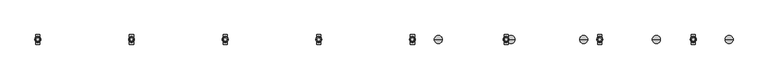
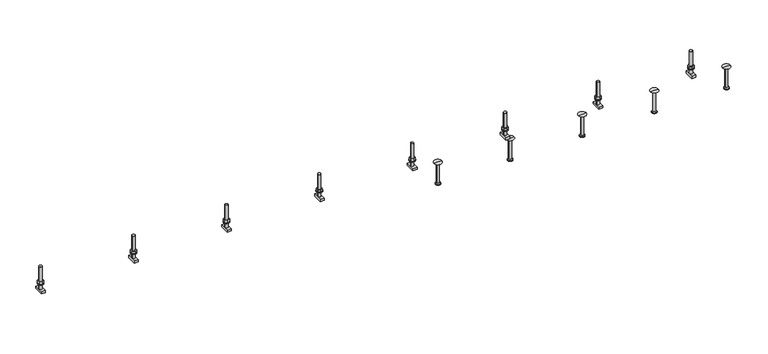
"""IFC4 building model written with IfcOpenShell, lengths in millimetres: fastener geometry, JTA-W JORDAHL® AnchorChannels : JTA-W L=3000 mm."""

from ifc_helpers import new_model, si_unit, point, frame, frame_2d, origin, place, context, project, spatial, polyline, circle_curve, trimmed, segment, composite_curve, outline, extrude, source, transform, mapped, element, save
from ifc_brep_helpers import plane_surface, cylinder_surface, revolved_surface, advanced_brep


def fastener_02e16a5b(model_context):
    return source(origin(), model_context, "Body", "SolidModel", [
        extrude(outline(polyline([(2608.3333333, 9.2376043), (2616.3333333, 4.6188022), (2616.3333333, -4.6188022), (2608.3333333, -9.2376043), (2600.3333333, -4.6188022), (2600.3333333, 4.6188022), (2608.3333333, 9.2376043)]), holes=[composite_curve([segment(trimmed(circle_curve(frame_2d((2608.3333333, 0.0)), 5.0), [point((2603.3333333, 0.0))], [point((2613.3333333, 0.0))], True, "CARTESIAN"), True, "CONTINUOUS"), segment(trimmed(circle_curve(frame_2d((2608.3333333, 0.0)), 5.0), [point((2613.3333333, 0.0))], [point((2603.3333333, 0.0))], True, "CARTESIAN"), True, "CONTINUOUS")], self_intersect=False)]), frame((0.0, 0.0, 17.0), z_axis=(0.0, 0.0, 1.0), x_axis=(1.0, 0.0, 0.0)), (0.0, 0.0, 1.0), 8.4),
        extrude(outline(composite_curve([segment(trimmed(circle_curve(frame_2d((2608.3333333, 0.0)), 10.0), [point((2598.3333333, 0.0))], [point((2618.3333333, 0.0))], False, "CARTESIAN"), True, "CONTINUOUS"), segment(trimmed(circle_curve(frame_2d((2608.3333333, 0.0)), 10.0), [point((2618.3333333, 0.0))], [point((2598.3333333, 0.0))], False, "CARTESIAN"), True, "CONTINUOUS")], self_intersect=False), holes=[composite_curve([segment(trimmed(circle_curve(frame_2d((2608.3333333, 0.0)), 5.25), [point((2603.0833333, 0.0))], [point((2613.5833333, 0.0))], True, "CARTESIAN"), True, "CONTINUOUS"), segment(trimmed(circle_curve(frame_2d((2608.3333333, 0.0)), 5.25), [point((2613.5833333, 0.0))], [point((2603.0833333, 0.0))], True, "CARTESIAN"), True, "CONTINUOUS")], self_intersect=False)]), frame((0.0, 0.0, 15.0), z_axis=(0.0, 0.0, 1.0), x_axis=(1.0, 0.0, 0.0)), (0.0, 0.0, 1.0), 2.0),
        extrude(outline(polyline([(2291.6666667, 9.2376043), (2299.6666667, 4.6188022), (2299.6666667, -4.6188022), (2291.6666667, -9.2376043), (2283.6666667, -4.6188022), (2283.6666667, 4.6188022), (2291.6666667, 9.2376043)]), holes=[composite_curve([segment(trimmed(circle_curve(frame_2d((2291.6666667, 0.0)), 5.0), [point((2286.6666667, 0.0))], [point((2296.6666667, 0.0))], True, "CARTESIAN"), True, "CONTINUOUS"), segment(trimmed(circle_curve(frame_2d((2291.6666667, 0.0)), 5.0), [point((2296.6666667, 0.0))], [point((2286.6666667, 0.0))], True, "CARTESIAN"), True, "CONTINUOUS")], self_intersect=False)]), frame((0.0, 0.0, 17.0), z_axis=(0.0, 0.0, 1.0), x_axis=(1.0, 0.0, 0.0)), (0.0, 0.0, 1.0), 8.4),
        extrude(outline(composite_curve([segment(trimmed(circle_curve(frame_2d((2291.6666667, 0.0)), 10.0), [point((2281.6666667, 0.0))], [point((2301.6666667, 0.0))], False, "CARTESIAN"), True, "CONTINUOUS"), segment(trimmed(circle_curve(frame_2d((2291.6666667, 0.0)), 10.0), [point((2301.6666667, 0.0))], [point((2281.6666667, 0.0))], False, "CARTESIAN"), True, "CONTINUOUS")], self_intersect=False), holes=[composite_curve([segment(trimmed(circle_curve(frame_2d((2291.6666667, 0.0)), 5.25), [point((2286.4166667, 0.0))], [point((2296.9166667, 0.0))], True, "CARTESIAN"), True, "CONTINUOUS"), segment(trimmed(circle_curve(frame_2d((2291.6666667, 0.0)), 5.25), [point((2296.9166667, 0.0))], [point((2286.4166667, 0.0))], True, "CARTESIAN"), True, "CONTINUOUS")], self_intersect=False)]), frame((0.0, 0.0, 15.0), z_axis=(0.0, 0.0, 1.0), x_axis=(1.0, 0.0, 0.0)), (0.0, 0.0, 1.0), 2.0),
        extrude(outline(polyline([(1975.0, 9.2376043), (1983.0, 4.6188022), (1983.0, -4.6188022), (1975.0, -9.2376043), (1967.0, -4.6188022), (1967.0, 4.6188022), (1975.0, 9.2376043)]), holes=[composite_curve([segment(trimmed(circle_curve(frame_2d((1975.0, 0.0)), 5.0), [point((1970.0, 0.0))], [point((1980.0, 0.0))], True, "CARTESIAN"), True, "CONTINUOUS"), segment(trimmed(circle_curve(frame_2d((1975.0, 0.0)), 5.0), [point((1980.0, 0.0))], [point((1970.0, 0.0))], True, "CARTESIAN"), True, "CONTINUOUS")], self_intersect=False)]), frame((0.0, 0.0, 17.0), z_axis=(0.0, 0.0, 1.0), x_axis=(1.0, 0.0, 0.0)), (0.0, 0.0, 1.0), 8.4),
        extrude(outline(composite_curve([segment(trimmed(circle_curve(frame_2d((1975.0, 0.0)), 10.0), [point((1965.0, 0.0))], [point((1985.0, 0.0))], False, "CARTESIAN"), True, "CONTINUOUS"), segment(trimmed(circle_curve(frame_2d((1975.0, 0.0)), 10.0), [point((1985.0, 0.0))], [point((1965.0, 0.0))], False, "CARTESIAN"), True, "CONTINUOUS")], self_intersect=False), holes=[composite_curve([segment(trimmed(circle_curve(frame_2d((1975.0, 0.0)), 5.25), [point((1969.75, 0.0))], [point((1980.25, 0.0))], True, "CARTESIAN"), True, "CONTINUOUS"), segment(trimmed(circle_curve(frame_2d((1975.0, 0.0)), 5.25), [point((1980.25, 0.0))], [point((1969.75, 0.0))], True, "CARTESIAN"), True, "CONTINUOUS")], self_intersect=False)]), frame((0.0, 0.0, 15.0), z_axis=(0.0, 0.0, 1.0), x_axis=(1.0, 0.0, 0.0)), (0.0, 0.0, 1.0), 2.0),
        extrude(outline(polyline([(1658.3333333, 9.2376043), (1666.3333333, 4.6188022), (1666.3333333, -4.6188022), (1658.3333333, -9.2376043), (1650.3333333, -4.6188022), (1650.3333333, 4.6188022), (1658.3333333, 9.2376043)]), holes=[composite_curve([segment(trimmed(circle_curve(frame_2d((1658.3333333, 0.0)), 5.0), [point((1653.3333333, 0.0))], [point((1663.3333333, 0.0))], True, "CARTESIAN"), True, "CONTINUOUS"), segment(trimmed(circle_curve(frame_2d((1658.3333333, 0.0)), 5.0), [point((1663.3333333, 0.0))], [point((1653.3333333, 0.0))], True, "CARTESIAN"), True, "CONTINUOUS")], self_intersect=False)]), frame((0.0, 0.0, 17.0), z_axis=(0.0, 0.0, 1.0), x_axis=(1.0, 0.0, 0.0)), (0.0, 0.0, 1.0), 8.4),
        extrude(outline(composite_curve([segment(trimmed(circle_curve(frame_2d((1658.3333333, 0.0)), 10.0), [point((1648.3333333, 0.0))], [point((1668.3333333, 0.0))], False, "CARTESIAN"), True, "CONTINUOUS"), segment(trimmed(circle_curve(frame_2d((1658.3333333, 0.0)), 10.0), [point((1668.3333333, 0.0))], [point((1648.3333333, 0.0))], False, "CARTESIAN"), True, "CONTINUOUS")], self_intersect=False), holes=[composite_curve([segment(trimmed(circle_curve(frame_2d((1658.3333333, 0.0)), 5.25), [point((1653.0833333, 0.0))], [point((1663.5833333, 0.0))], True, "CARTESIAN"), True, "CONTINUOUS"), segment(trimmed(circle_curve(frame_2d((1658.3333333, 0.0)), 5.25), [point((1663.5833333, 0.0))], [point((1653.0833333, 0.0))], True, "CARTESIAN"), True, "CONTINUOUS")], self_intersect=False)]), frame((0.0, 0.0, 15.0), z_axis=(0.0, 0.0, 1.0), x_axis=(1.0, 0.0, 0.0)), (0.0, 0.0, 1.0), 2.0),
        extrude(outline(polyline([(1341.6666667, 9.2376043), (1349.6666667, 4.6188022), (1349.6666667, -4.6188022), (1341.6666667, -9.2376043), (1333.6666667, -4.6188022), (1333.6666667, 4.6188022), (1341.6666667, 9.2376043)]), holes=[composite_curve([segment(trimmed(circle_curve(frame_2d((1341.6666667, 0.0)), 5.0), [point((1336.6666667, 0.0))], [point((1346.6666667, 0.0))], True, "CARTESIAN"), True, "CONTINUOUS"), segment(trimmed(circle_curve(frame_2d((1341.6666667, 0.0)), 5.0), [point((1346.6666667, 0.0))], [point((1336.6666667, 0.0))], True, "CARTESIAN"), True, "CONTINUOUS")], self_intersect=False)]), frame((0.0, 0.0, 17.0), z_axis=(0.0, 0.0, 1.0), x_axis=(1.0, 0.0, 0.0)), (0.0, 0.0, 1.0), 8.4),
        extrude(outline(composite_curve([segment(trimmed(circle_curve(frame_2d((1341.6666667, 0.0)), 10.0), [point((1331.6666667, 0.0))], [point((1351.6666667, 0.0))], False, "CARTESIAN"), True, "CONTINUOUS"), segment(trimmed(circle_curve(frame_2d((1341.6666667, 0.0)), 10.0), [point((1351.6666667, 0.0))], [point((1331.6666667, 0.0))], False, "CARTESIAN"), True, "CONTINUOUS")], self_intersect=False), holes=[composite_curve([segment(trimmed(circle_curve(frame_2d((1341.6666667, 0.0)), 5.25), [point((1336.4166667, 0.0))], [point((1346.9166667, 0.0))], True, "CARTESIAN"), True, "CONTINUOUS"), segment(trimmed(circle_curve(frame_2d((1341.6666667, 0.0)), 5.25), [point((1346.9166667, 0.0))], [point((1336.4166667, 0.0))], True, "CARTESIAN"), True, "CONTINUOUS")], self_intersect=False)]), frame((0.0, 0.0, 15.0), z_axis=(0.0, 0.0, 1.0), x_axis=(1.0, 0.0, 0.0)), (0.0, 0.0, 1.0), 2.0),
        extrude(outline(polyline([(1025.0, 9.2376043), (1033.0, 4.6188022), (1033.0, -4.6188022), (1025.0, -9.2376043), (1017.0, -4.6188022), (1017.0, 4.6188022), (1025.0, 9.2376043)]), holes=[composite_curve([segment(trimmed(circle_curve(frame_2d((1025.0, 0.0)), 5.0), [point((1020.0, 0.0))], [point((1030.0, 0.0))], True, "CARTESIAN"), True, "CONTINUOUS"), segment(trimmed(circle_curve(frame_2d((1025.0, 0.0)), 5.0), [point((1030.0, 0.0))], [point((1020.0, 0.0))], True, "CARTESIAN"), True, "CONTINUOUS")], self_intersect=False)]), frame((0.0, 0.0, 17.0), z_axis=(0.0, 0.0, 1.0), x_axis=(1.0, 0.0, 0.0)), (0.0, 0.0, 1.0), 8.4),
        extrude(outline(composite_curve([segment(trimmed(circle_curve(frame_2d((1025.0, 0.0)), 10.0), [point((1015.0, 0.0))], [point((1035.0, 0.0))], False, "CARTESIAN"), True, "CONTINUOUS"), segment(trimmed(circle_curve(frame_2d((1025.0, 0.0)), 10.0), [point((1035.0, 0.0))], [point((1015.0, 0.0))], False, "CARTESIAN"), True, "CONTINUOUS")], self_intersect=False), holes=[composite_curve([segment(trimmed(circle_curve(frame_2d((1025.0, 0.0)), 5.25), [point((1019.75, 0.0))], [point((1030.25, 0.0))], True, "CARTESIAN"), True, "CONTINUOUS"), segment(trimmed(circle_curve(frame_2d((1025.0, 0.0)), 5.25), [point((1030.25, 0.0))], [point((1019.75, 0.0))], True, "CARTESIAN"), True, "CONTINUOUS")], self_intersect=False)]), frame((0.0, 0.0, 15.0), z_axis=(0.0, 0.0, 1.0), x_axis=(1.0, 0.0, 0.0)), (0.0, 0.0, 1.0), 2.0),
        extrude(outline(polyline([(708.3333333, 9.2376043), (716.3333333, 4.6188022), (716.3333333, -4.6188022), (708.3333333, -9.2376043), (700.3333333, -4.6188022), (700.3333333, 4.6188022), (708.3333333, 9.2376043)]), holes=[composite_curve([segment(trimmed(circle_curve(frame_2d((708.3333333, 0.0)), 5.0), [point((703.3333333, 0.0))], [point((713.3333333, 0.0))], True, "CARTESIAN"), True, "CONTINUOUS"), segment(trimmed(circle_curve(frame_2d((708.3333333, 0.0)), 5.0), [point((713.3333333, 0.0))], [point((703.3333333, 0.0))], True, "CARTESIAN"), True, "CONTINUOUS")], self_intersect=False)]), frame((0.0, 0.0, 17.0), z_axis=(0.0, 0.0, 1.0), x_axis=(1.0, 0.0, 0.0)), (0.0, 0.0, 1.0), 8.4),
        extrude(outline(composite_curve([segment(trimmed(circle_curve(frame_2d((708.3333333, 0.0)), 10.0), [point((698.3333333, 0.0))], [point((718.3333333, 0.0))], False, "CARTESIAN"), True, "CONTINUOUS"), segment(trimmed(circle_curve(frame_2d((708.3333333, 0.0)), 10.0), [point((718.3333333, 0.0))], [point((698.3333333, 0.0))], False, "CARTESIAN"), True, "CONTINUOUS")], self_intersect=False), holes=[composite_curve([segment(trimmed(circle_curve(frame_2d((708.3333333, 0.0)), 5.25), [point((703.0833333, 0.0))], [point((713.5833333, 0.0))], True, "CARTESIAN"), True, "CONTINUOUS"), segment(trimmed(circle_curve(frame_2d((708.3333333, 0.0)), 5.25), [point((713.5833333, 0.0))], [point((703.0833333, 0.0))], True, "CARTESIAN"), True, "CONTINUOUS")], self_intersect=False)]), frame((0.0, 0.0, 15.0), z_axis=(0.0, 0.0, 1.0), x_axis=(1.0, 0.0, 0.0)), (0.0, 0.0, 1.0), 2.0),
        extrude(outline(polyline([(391.6666667, 9.2376043), (399.6666667, 4.6188022), (399.6666667, -4.6188022), (391.6666667, -9.2376043), (383.6666667, -4.6188022), (383.6666667, 4.6188022), (391.6666667, 9.2376043)]), holes=[composite_curve([segment(trimmed(circle_curve(frame_2d((391.6666667, 0.0)), 5.0), [point((386.6666667, 0.0))], [point((396.6666667, 0.0))], True, "CARTESIAN"), True, "CONTINUOUS"), segment(trimmed(circle_curve(frame_2d((391.6666667, 0.0)), 5.0), [point((396.6666667, 0.0))], [point((386.6666667, 0.0))], True, "CARTESIAN"), True, "CONTINUOUS")], self_intersect=False)]), frame((0.0, 0.0, 17.0), z_axis=(0.0, 0.0, 1.0), x_axis=(1.0, 0.0, 0.0)), (0.0, 0.0, 1.0), 8.4),
        extrude(outline(composite_curve([segment(trimmed(circle_curve(frame_2d((391.6666667, 0.0)), 10.0), [point((381.6666667, 0.0))], [point((401.6666667, 0.0))], False, "CARTESIAN"), True, "CONTINUOUS"), segment(trimmed(circle_curve(frame_2d((391.6666667, 0.0)), 10.0), [point((401.6666667, 0.0))], [point((381.6666667, 0.0))], False, "CARTESIAN"), True, "CONTINUOUS")], self_intersect=False), holes=[composite_curve([segment(trimmed(circle_curve(frame_2d((391.6666667, 0.0)), 5.25), [point((386.4166667, 0.0))], [point((396.9166667, 0.0))], True, "CARTESIAN"), True, "CONTINUOUS"), segment(trimmed(circle_curve(frame_2d((391.6666667, 0.0)), 5.25), [point((396.9166667, 0.0))], [point((386.4166667, 0.0))], True, "CARTESIAN"), True, "CONTINUOUS")], self_intersect=False)]), frame((0.0, 0.0, 15.0), z_axis=(0.0, 0.0, 1.0), x_axis=(1.0, 0.0, 0.0)), (0.0, 0.0, 1.0), 2.0),
        advanced_brep(
        [(2615.3333333, 16.25, -3.0), (2615.3333333, -16.25, -3.0), (2615.3333333, -16.25, -11.0), (2615.3333333, 16.25, -11.0), (2601.3333333, 16.25, -3.0), (2601.3333333, 16.25, -11.0), (2601.3333333, -16.25, -11.0), (2601.3333333, -16.25, -3.0), (2613.3333333, 0.0, -3.0), (2603.3333333, 0.0, -3.0), (2603.3333333, 0.0, 77.0), (2613.3333333, 0.0, 77.0)],
        [
            (0, 1),
            (1, 2),
            (2, 3),
            (3, 0),
            (4, 5),
            (5, 6),
            (6, 7),
            (7, 4),
            (0, 4),
            (7, 1),
            (8, 9, circle_curve(frame((2608.3333333, 0.0, -3.0), z_axis=(0.0, 0.0, -1.0), x_axis=(1.0, 0.0, 0.0)), 5.0)),
            (9, 8, circle_curve(frame((2608.3333333, 0.0, -3.0), z_axis=(0.0, 0.0, -1.0), x_axis=(1.0, 0.0, 0.0)), 5.0)),
            (6, 2),
            (5, 3),
            (10, 11, circle_curve(frame((2608.3333333, 0.0, 77.0), z_axis=(0.0, 0.0, 1.0), x_axis=(1.0, 0.0, 0.0)), 5.0)),
            (11, 10, circle_curve(frame((2608.3333333, 0.0, 77.0), z_axis=(0.0, 0.0, 1.0), x_axis=(1.0, 0.0, 0.0)), 5.0)),
            (10, 9),
            (8, 11),
        ],
        [
            plane_surface(frame((2615.3333333, -16.25, -3.0), z_axis=(1.0, 0.0, 0.0), x_axis=(0.0, -1.0, 0.0))),
            plane_surface(frame((2601.3333333, -16.25, -3.0), z_axis=(-1.0, 0.0, 0.0), x_axis=(0.0, 1.0, 0.0))),
            plane_surface(frame((2615.3333333, 16.25, -3.0), z_axis=(0.0, 0.0, 1.0), x_axis=(-1.0, 0.0, 0.0))),
            plane_surface(frame((2615.3333333, -16.25, -3.0), z_axis=(0.0, -1.0, 0.0), x_axis=(-1.0, 0.0, 0.0))),
            plane_surface(frame((2615.3333333, -16.25, -11.0), z_axis=(0.0, 0.0, -1.0), x_axis=(-1.0, 0.0, 0.0))),
            plane_surface(frame((2615.3333333, 16.25, -11.0), z_axis=(0.0, 1.0, 0.0), x_axis=(-1.0, 0.0, 0.0))),
            plane_surface(frame((2613.3333333, 0.0, 77.0), z_axis=(0.0, 0.0, 1.0), x_axis=(0.0, 1.0, 0.0))),
            cylinder_surface(frame((2608.3333333, 0.0, -3.0), z_axis=(0.0, 0.0, 1.0), x_axis=(1.0, 0.0, 0.0)), 5.0),
        ],
        [
            (0, [[1, 2, 3, 4]]),
            (1, [[5, 6, 7, 8]]),
            (2, [[-1, 9, -8, 10], [11, 12]]),
            (3, [[-2, -10, -7, 13]]),
            (4, [[-3, -13, -6, 14]]),
            (5, [[-4, -14, -5, -9]]),
            (6, [[15, 16]]),
            (7, [[-15, 17, -11, 18]]),
            (7, [[-16, -18, -12, -17]]),
        ],
    ),
        advanced_brep(
        [(2298.6666667, 16.25, -3.0), (2298.6666667, -16.25, -3.0), (2298.6666667, -16.25, -11.0), (2298.6666667, 16.25, -11.0), (2284.6666667, 16.25, -3.0), (2284.6666667, 16.25, -11.0), (2284.6666667, -16.25, -11.0), (2284.6666667, -16.25, -3.0), (2296.6666667, 0.0, -3.0), (2286.6666667, 0.0, -3.0), (2286.6666667, 0.0, 77.0), (2296.6666667, 0.0, 77.0)],
        [
            (0, 1),
            (1, 2),
            (2, 3),
            (3, 0),
            (4, 5),
            (5, 6),
            (6, 7),
            (7, 4),
            (0, 4),
            (7, 1),
            (8, 9, circle_curve(frame((2291.6666667, 0.0, -3.0), z_axis=(0.0, 0.0, -1.0), x_axis=(1.0, 0.0, 0.0)), 5.0)),
            (9, 8, circle_curve(frame((2291.6666667, 0.0, -3.0), z_axis=(0.0, 0.0, -1.0), x_axis=(1.0, 0.0, 0.0)), 5.0)),
            (6, 2),
            (5, 3),
            (10, 11, circle_curve(frame((2291.6666667, 0.0, 77.0), z_axis=(0.0, 0.0, 1.0), x_axis=(1.0, 0.0, 0.0)), 5.0)),
            (11, 10, circle_curve(frame((2291.6666667, 0.0, 77.0), z_axis=(0.0, 0.0, 1.0), x_axis=(1.0, 0.0, 0.0)), 5.0)),
            (10, 9),
            (8, 11),
        ],
        [
            plane_surface(frame((2298.6666667, -16.25, -3.0), z_axis=(1.0, 0.0, 0.0), x_axis=(0.0, -1.0, 0.0))),
            plane_surface(frame((2284.6666667, -16.25, -3.0), z_axis=(-1.0, 0.0, 0.0), x_axis=(0.0, 1.0, 0.0))),
            plane_surface(frame((2298.6666667, 16.25, -3.0), z_axis=(0.0, 0.0, 1.0), x_axis=(-1.0, 0.0, 0.0))),
            plane_surface(frame((2298.6666667, -16.25, -3.0), z_axis=(0.0, -1.0, 0.0), x_axis=(-1.0, 0.0, 0.0))),
            plane_surface(frame((2298.6666667, -16.25, -11.0), z_axis=(0.0, 0.0, -1.0), x_axis=(-1.0, 0.0, 0.0))),
            plane_surface(frame((2298.6666667, 16.25, -11.0), z_axis=(0.0, 1.0, 0.0), x_axis=(-1.0, 0.0, 0.0))),
            plane_surface(frame((2296.6666667, 0.0, 77.0), z_axis=(0.0, 0.0, 1.0), x_axis=(0.0, 1.0, 0.0))),
            cylinder_surface(frame((2291.6666667, 0.0, -3.0), z_axis=(0.0, 0.0, 1.0), x_axis=(1.0, 0.0, 0.0)), 5.0),
        ],
        [
            (0, [[1, 2, 3, 4]]),
            (1, [[5, 6, 7, 8]]),
            (2, [[-1, 9, -8, 10], [11, 12]]),
            (3, [[-2, -10, -7, 13]]),
            (4, [[-3, -13, -6, 14]]),
            (5, [[-4, -14, -5, -9]]),
            (6, [[15, 16]]),
            (7, [[-15, 17, -11, 18]]),
            (7, [[-16, -18, -12, -17]]),
        ],
    ),
        advanced_brep(
        [(1982.0, 16.25, -3.0), (1982.0, -16.25, -3.0), (1982.0, -16.25, -11.0), (1982.0, 16.25, -11.0), (1968.0, 16.25, -3.0), (1968.0, 16.25, -11.0), (1968.0, -16.25, -11.0), (1968.0, -16.25, -3.0), (1980.0, 0.0, -3.0), (1970.0, 0.0, -3.0), (1970.0, 0.0, 77.0), (1980.0, 0.0, 77.0)],
        [
            (0, 1),
            (1, 2),
            (2, 3),
            (3, 0),
            (4, 5),
            (5, 6),
            (6, 7),
            (7, 4),
            (0, 4),
            (7, 1),
            (8, 9, circle_curve(frame((1975.0, 0.0, -3.0), z_axis=(0.0, 0.0, -1.0), x_axis=(1.0, 0.0, 0.0)), 5.0)),
            (9, 8, circle_curve(frame((1975.0, 0.0, -3.0), z_axis=(0.0, 0.0, -1.0), x_axis=(1.0, 0.0, 0.0)), 5.0)),
            (6, 2),
            (5, 3),
            (10, 11, circle_curve(frame((1975.0, 0.0, 77.0), z_axis=(0.0, 0.0, 1.0), x_axis=(1.0, 0.0, 0.0)), 5.0)),
            (11, 10, circle_curve(frame((1975.0, 0.0, 77.0), z_axis=(0.0, 0.0, 1.0), x_axis=(1.0, 0.0, 0.0)), 5.0)),
            (10, 9),
            (8, 11),
        ],
        [
            plane_surface(frame((1982.0, -16.25, -3.0), z_axis=(1.0, 0.0, 0.0), x_axis=(0.0, -1.0, 0.0))),
            plane_surface(frame((1968.0, -16.25, -3.0), z_axis=(-1.0, 0.0, 0.0), x_axis=(0.0, 1.0, 0.0))),
            plane_surface(frame((1982.0, 16.25, -3.0), z_axis=(0.0, 0.0, 1.0), x_axis=(-1.0, 0.0, 0.0))),
            plane_surface(frame((1982.0, -16.25, -3.0), z_axis=(0.0, -1.0, 0.0), x_axis=(-1.0, 0.0, 0.0))),
            plane_surface(frame((1982.0, -16.25, -11.0), z_axis=(0.0, 0.0, -1.0), x_axis=(-1.0, 0.0, 0.0))),
            plane_surface(frame((1982.0, 16.25, -11.0), z_axis=(0.0, 1.0, 0.0), x_axis=(-1.0, 0.0, 0.0))),
            plane_surface(frame((1980.0, 0.0, 77.0), z_axis=(0.0, 0.0, 1.0), x_axis=(0.0, 1.0, 0.0))),
            cylinder_surface(frame((1975.0, 0.0, -3.0), z_axis=(0.0, 0.0, 1.0), x_axis=(1.0, 0.0, 0.0)), 5.0),
        ],
        [
            (0, [[1, 2, 3, 4]]),
            (1, [[5, 6, 7, 8]]),
            (2, [[-1, 9, -8, 10], [11, 12]]),
            (3, [[-2, -10, -7, 13]]),
            (4, [[-3, -13, -6, 14]]),
            (5, [[-4, -14, -5, -9]]),
            (6, [[15, 16]]),
            (7, [[-15, 17, -11, 18]]),
            (7, [[-16, -18, -12, -17]]),
        ],
    ),
        advanced_brep(
        [(1665.3333333, 16.25, -3.0), (1665.3333333, -16.25, -3.0), (1665.3333333, -16.25, -11.0), (1665.3333333, 16.25, -11.0), (1651.3333333, 16.25, -3.0), (1651.3333333, 16.25, -11.0), (1651.3333333, -16.25, -11.0), (1651.3333333, -16.25, -3.0), (1663.3333333, 0.0, -3.0), (1653.3333333, 0.0, -3.0), (1653.3333333, 0.0, 77.0), (1663.3333333, 0.0, 77.0)],
        [
            (0, 1),
            (1, 2),
            (2, 3),
            (3, 0),
            (4, 5),
            (5, 6),
            (6, 7),
            (7, 4),
            (0, 4),
            (7, 1),
            (8, 9, circle_curve(frame((1658.3333333, 0.0, -3.0), z_axis=(0.0, 0.0, -1.0), x_axis=(1.0, 0.0, 0.0)), 5.0)),
            (9, 8, circle_curve(frame((1658.3333333, 0.0, -3.0), z_axis=(0.0, 0.0, -1.0), x_axis=(1.0, 0.0, 0.0)), 5.0)),
            (6, 2),
            (5, 3),
            (10, 11, circle_curve(frame((1658.3333333, 0.0, 77.0), z_axis=(0.0, 0.0, 1.0), x_axis=(1.0, 0.0, 0.0)), 5.0)),
            (11, 10, circle_curve(frame((1658.3333333, 0.0, 77.0), z_axis=(0.0, 0.0, 1.0), x_axis=(1.0, 0.0, 0.0)), 5.0)),
            (10, 9),
            (8, 11),
        ],
        [
            plane_surface(frame((1665.3333333, -16.25, -3.0), z_axis=(1.0, 0.0, 0.0), x_axis=(0.0, -1.0, 0.0))),
            plane_surface(frame((1651.3333333, -16.25, -3.0), z_axis=(-1.0, 0.0, 0.0), x_axis=(0.0, 1.0, 0.0))),
            plane_surface(frame((1665.3333333, 16.25, -3.0), z_axis=(0.0, 0.0, 1.0), x_axis=(-1.0, 0.0, 0.0))),
            plane_surface(frame((1665.3333333, -16.25, -3.0), z_axis=(0.0, -1.0, 0.0), x_axis=(-1.0, 0.0, 0.0))),
            plane_surface(frame((1665.3333333, -16.25, -11.0), z_axis=(0.0, 0.0, -1.0), x_axis=(-1.0, 0.0, 0.0))),
            plane_surface(frame((1665.3333333, 16.25, -11.0), z_axis=(0.0, 1.0, 0.0), x_axis=(-1.0, 0.0, 0.0))),
            plane_surface(frame((1663.3333333, 0.0, 77.0), z_axis=(0.0, 0.0, 1.0), x_axis=(0.0, 1.0, 0.0))),
            cylinder_surface(frame((1658.3333333, 0.0, -3.0), z_axis=(0.0, 0.0, 1.0), x_axis=(1.0, 0.0, 0.0)), 5.0),
        ],
        [
            (0, [[1, 2, 3, 4]]),
            (1, [[5, 6, 7, 8]]),
            (2, [[-1, 9, -8, 10], [11, 12]]),
            (3, [[-2, -10, -7, 13]]),
            (4, [[-3, -13, -6, 14]]),
            (5, [[-4, -14, -5, -9]]),
            (6, [[15, 16]]),
            (7, [[-15, 17, -11, 18]]),
            (7, [[-16, -18, -12, -17]]),
        ],
    ),
        advanced_brep(
        [(1348.6666667, 16.25, -3.0), (1348.6666667, -16.25, -3.0), (1348.6666667, -16.25, -11.0), (1348.6666667, 16.25, -11.0), (1334.6666667, 16.25, -3.0), (1334.6666667, 16.25, -11.0), (1334.6666667, -16.25, -11.0), (1334.6666667, -16.25, -3.0), (1346.6666667, 0.0, -3.0), (1336.6666667, 0.0, -3.0), (1336.6666667, 0.0, 77.0), (1346.6666667, 0.0, 77.0)],
        [
            (0, 1),
            (1, 2),
            (2, 3),
            (3, 0),
            (4, 5),
            (5, 6),
            (6, 7),
            (7, 4),
            (0, 4),
            (7, 1),
            (8, 9, circle_curve(frame((1341.6666667, 0.0, -3.0), z_axis=(0.0, 0.0, -1.0), x_axis=(1.0, 0.0, 0.0)), 5.0)),
            (9, 8, circle_curve(frame((1341.6666667, 0.0, -3.0), z_axis=(0.0, 0.0, -1.0), x_axis=(1.0, 0.0, 0.0)), 5.0)),
            (6, 2),
            (5, 3),
            (10, 11, circle_curve(frame((1341.6666667, 0.0, 77.0), z_axis=(0.0, 0.0, 1.0), x_axis=(1.0, 0.0, 0.0)), 5.0)),
            (11, 10, circle_curve(frame((1341.6666667, 0.0, 77.0), z_axis=(0.0, 0.0, 1.0), x_axis=(1.0, 0.0, 0.0)), 5.0)),
            (10, 9),
            (8, 11),
        ],
        [
            plane_surface(frame((1348.6666667, -16.25, -3.0), z_axis=(1.0, 0.0, 0.0), x_axis=(0.0, -1.0, 0.0))),
            plane_surface(frame((1334.6666667, -16.25, -3.0), z_axis=(-1.0, 0.0, 0.0), x_axis=(0.0, 1.0, 0.0))),
            plane_surface(frame((1348.6666667, 16.25, -3.0), z_axis=(0.0, 0.0, 1.0), x_axis=(-1.0, 0.0, 0.0))),
            plane_surface(frame((1348.6666667, -16.25, -3.0), z_axis=(0.0, -1.0, 0.0), x_axis=(-1.0, 0.0, 0.0))),
            plane_surface(frame((1348.6666667, -16.25, -11.0), z_axis=(0.0, 0.0, -1.0), x_axis=(-1.0, 0.0, 0.0))),
            plane_surface(frame((1348.6666667, 16.25, -11.0), z_axis=(0.0, 1.0, 0.0), x_axis=(-1.0, 0.0, 0.0))),
            plane_surface(frame((1346.6666667, 0.0, 77.0), z_axis=(0.0, 0.0, 1.0), x_axis=(0.0, 1.0, 0.0))),
            cylinder_surface(frame((1341.6666667, 0.0, -3.0), z_axis=(0.0, 0.0, 1.0), x_axis=(1.0, 0.0, 0.0)), 5.0),
        ],
        [
            (0, [[1, 2, 3, 4]]),
            (1, [[5, 6, 7, 8]]),
            (2, [[-1, 9, -8, 10], [11, 12]]),
            (3, [[-2, -10, -7, 13]]),
            (4, [[-3, -13, -6, 14]]),
            (5, [[-4, -14, -5, -9]]),
            (6, [[15, 16]]),
            (7, [[-15, 17, -11, 18]]),
            (7, [[-16, -18, -12, -17]]),
        ],
    ),
        advanced_brep(
        [(1032.0, 16.25, -3.0), (1032.0, -16.25, -3.0), (1032.0, -16.25, -11.0), (1032.0, 16.25, -11.0), (1018.0, 16.25, -3.0), (1018.0, 16.25, -11.0), (1018.0, -16.25, -11.0), (1018.0, -16.25, -3.0), (1030.0, 0.0, -3.0), (1020.0, 0.0, -3.0), (1020.0, 0.0, 77.0), (1030.0, 0.0, 77.0)],
        [
            (0, 1),
            (1, 2),
            (2, 3),
            (3, 0),
            (4, 5),
            (5, 6),
            (6, 7),
            (7, 4),
            (0, 4),
            (7, 1),
            (8, 9, circle_curve(frame((1025.0, 0.0, -3.0), z_axis=(0.0, 0.0, -1.0), x_axis=(1.0, 0.0, 0.0)), 5.0)),
            (9, 8, circle_curve(frame((1025.0, 0.0, -3.0), z_axis=(0.0, 0.0, -1.0), x_axis=(1.0, 0.0, 0.0)), 5.0)),
            (6, 2),
            (5, 3),
            (10, 11, circle_curve(frame((1025.0, 0.0, 77.0), z_axis=(0.0, 0.0, 1.0), x_axis=(1.0, 0.0, 0.0)), 5.0)),
            (11, 10, circle_curve(frame((1025.0, 0.0, 77.0), z_axis=(0.0, 0.0, 1.0), x_axis=(1.0, 0.0, 0.0)), 5.0)),
            (10, 9),
            (8, 11),
        ],
        [
            plane_surface(frame((1032.0, -16.25, -3.0), z_axis=(1.0, 0.0, 0.0), x_axis=(0.0, -1.0, 0.0))),
            plane_surface(frame((1018.0, -16.25, -3.0), z_axis=(-1.0, 0.0, 0.0), x_axis=(0.0, 1.0, 0.0))),
            plane_surface(frame((1032.0, 16.25, -3.0), z_axis=(0.0, 0.0, 1.0), x_axis=(-1.0, 0.0, 0.0))),
            plane_surface(frame((1032.0, -16.25, -3.0), z_axis=(0.0, -1.0, 0.0), x_axis=(-1.0, 0.0, 0.0))),
            plane_surface(frame((1032.0, -16.25, -11.0), z_axis=(0.0, 0.0, -1.0), x_axis=(-1.0, 0.0, 0.0))),
            plane_surface(frame((1032.0, 16.25, -11.0), z_axis=(0.0, 1.0, 0.0), x_axis=(-1.0, 0.0, 0.0))),
            plane_surface(frame((1030.0, 0.0, 77.0), z_axis=(0.0, 0.0, 1.0), x_axis=(0.0, 1.0, 0.0))),
            cylinder_surface(frame((1025.0, 0.0, -3.0), z_axis=(0.0, 0.0, 1.0), x_axis=(1.0, 0.0, 0.0)), 5.0),
        ],
        [
            (0, [[1, 2, 3, 4]]),
            (1, [[5, 6, 7, 8]]),
            (2, [[-1, 9, -8, 10], [11, 12]]),
            (3, [[-2, -10, -7, 13]]),
            (4, [[-3, -13, -6, 14]]),
            (5, [[-4, -14, -5, -9]]),
            (6, [[15, 16]]),
            (7, [[-15, 17, -11, 18]]),
            (7, [[-16, -18, -12, -17]]),
        ],
    ),
        advanced_brep(
        [(715.3333333, 16.25, -3.0), (715.3333333, -16.25, -3.0), (715.3333333, -16.25, -11.0), (715.3333333, 16.25, -11.0), (701.3333333, 16.25, -3.0), (701.3333333, 16.25, -11.0), (701.3333333, -16.25, -11.0), (701.3333333, -16.25, -3.0), (713.3333333, 0.0, -3.0), (703.3333333, 0.0, -3.0), (703.3333333, 0.0, 77.0), (713.3333333, 0.0, 77.0)],
        [
            (0, 1),
            (1, 2),
            (2, 3),
            (3, 0),
            (4, 5),
            (5, 6),
            (6, 7),
            (7, 4),
            (0, 4),
            (7, 1),
            (8, 9, circle_curve(frame((708.3333333, 0.0, -3.0), z_axis=(0.0, 0.0, -1.0), x_axis=(1.0, 0.0, 0.0)), 5.0)),
            (9, 8, circle_curve(frame((708.3333333, 0.0, -3.0), z_axis=(0.0, 0.0, -1.0), x_axis=(1.0, 0.0, 0.0)), 5.0)),
            (6, 2),
            (5, 3),
            (10, 11, circle_curve(frame((708.3333333, 0.0, 77.0), z_axis=(0.0, 0.0, 1.0), x_axis=(1.0, 0.0, 0.0)), 5.0)),
            (11, 10, circle_curve(frame((708.3333333, 0.0, 77.0), z_axis=(0.0, 0.0, 1.0), x_axis=(1.0, 0.0, 0.0)), 5.0)),
            (10, 9),
            (8, 11),
        ],
        [
            plane_surface(frame((715.3333333, -16.25, -3.0), z_axis=(1.0, 0.0, 0.0), x_axis=(0.0, -1.0, 0.0))),
            plane_surface(frame((701.3333333, -16.25, -3.0), z_axis=(-1.0, 0.0, 0.0), x_axis=(0.0, 1.0, 0.0))),
            plane_surface(frame((715.3333333, 16.25, -3.0), z_axis=(0.0, 0.0, 1.0), x_axis=(-1.0, 0.0, 0.0))),
            plane_surface(frame((715.3333333, -16.25, -3.0), z_axis=(0.0, -1.0, 0.0), x_axis=(-1.0, 0.0, 0.0))),
            plane_surface(frame((715.3333333, -16.25, -11.0), z_axis=(0.0, 0.0, -1.0), x_axis=(-1.0, 0.0, 0.0))),
            plane_surface(frame((715.3333333, 16.25, -11.0), z_axis=(0.0, 1.0, 0.0), x_axis=(-1.0, 0.0, 0.0))),
            plane_surface(frame((713.3333333, 0.0, 77.0), z_axis=(0.0, 0.0, 1.0), x_axis=(0.0, 1.0, 0.0))),
            cylinder_surface(frame((708.3333333, 0.0, -3.0), z_axis=(0.0, 0.0, 1.0), x_axis=(1.0, 0.0, 0.0)), 5.0),
        ],
        [
            (0, [[1, 2, 3, 4]]),
            (1, [[5, 6, 7, 8]]),
            (2, [[-1, 9, -8, 10], [11, 12]]),
            (3, [[-2, -10, -7, 13]]),
            (4, [[-3, -13, -6, 14]]),
            (5, [[-4, -14, -5, -9]]),
            (6, [[15, 16]]),
            (7, [[-15, 17, -11, 18]]),
            (7, [[-16, -18, -12, -17]]),
        ],
    ),
        advanced_brep(
        [(398.6666667, 16.25, -3.0), (398.6666667, -16.25, -3.0), (398.6666667, -16.25, -11.0), (398.6666667, 16.25, -11.0), (384.6666667, 16.25, -3.0), (384.6666667, 16.25, -11.0), (384.6666667, -16.25, -11.0), (384.6666667, -16.25, -3.0), (396.6666667, 0.0, -3.0), (386.6666667, 0.0, -3.0), (386.6666667, 0.0, 77.0), (396.6666667, 0.0, 77.0)],
        [
            (0, 1),
            (1, 2),
            (2, 3),
            (3, 0),
            (4, 5),
            (5, 6),
            (6, 7),
            (7, 4),
            (0, 4),
            (7, 1),
            (8, 9, circle_curve(frame((391.6666667, 0.0, -3.0), z_axis=(0.0, 0.0, -1.0), x_axis=(1.0, 0.0, 0.0)), 5.0)),
            (9, 8, circle_curve(frame((391.6666667, 0.0, -3.0), z_axis=(0.0, 0.0, -1.0), x_axis=(1.0, 0.0, 0.0)), 5.0)),
            (6, 2),
            (5, 3),
            (10, 11, circle_curve(frame((391.6666667, 0.0, 77.0), z_axis=(0.0, 0.0, 1.0), x_axis=(1.0, 0.0, 0.0)), 5.0)),
            (11, 10, circle_curve(frame((391.6666667, 0.0, 77.0), z_axis=(0.0, 0.0, 1.0), x_axis=(1.0, 0.0, 0.0)), 5.0)),
            (10, 9),
            (8, 11),
        ],
        [
            plane_surface(frame((398.6666667, -16.25, -3.0), z_axis=(1.0, 0.0, 0.0), x_axis=(0.0, -1.0, 0.0))),
            plane_surface(frame((384.6666667, -16.25, -3.0), z_axis=(-1.0, 0.0, 0.0), x_axis=(0.0, 1.0, 0.0))),
            plane_surface(frame((398.6666667, 16.25, -3.0), z_axis=(0.0, 0.0, 1.0), x_axis=(-1.0, 0.0, 0.0))),
            plane_surface(frame((398.6666667, -16.25, -3.0), z_axis=(0.0, -1.0, 0.0), x_axis=(-1.0, 0.0, 0.0))),
            plane_surface(frame((398.6666667, -16.25, -11.0), z_axis=(0.0, 0.0, -1.0), x_axis=(-1.0, 0.0, 0.0))),
            plane_surface(frame((398.6666667, 16.25, -11.0), z_axis=(0.0, 1.0, 0.0), x_axis=(-1.0, 0.0, 0.0))),
            plane_surface(frame((396.6666667, 0.0, 77.0), z_axis=(0.0, 0.0, 1.0), x_axis=(0.0, 1.0, 0.0))),
            cylinder_surface(frame((391.6666667, 0.0, -3.0), z_axis=(0.0, 0.0, 1.0), x_axis=(1.0, 0.0, 0.0)), 5.0),
        ],
        [
            (0, [[1, 2, 3, 4]]),
            (1, [[5, 6, 7, 8]]),
            (2, [[-1, 9, -8, 10], [11, 12]]),
            (3, [[-2, -10, -7, 13]]),
            (4, [[-3, -13, -6, 14]]),
            (5, [[-4, -14, -5, -9]]),
            (6, [[15, 16]]),
            (7, [[-15, 17, -11, 18]]),
            (7, [[-16, -18, -12, -17]]),
        ],
    ),
        advanced_brep(
        [(2729.1666667, 0.0, -22.0), (2742.6666667, 0.0, -22.0), (2715.6666667, 0.0, -22.0), (2720.6666667, 0.0, -100.0), (2737.6666667, 0.0, -100.0), (2729.1666667, 0.0, -100.0), (2720.6666667, 0.0, -98.0), (2737.6666667, 0.0, -98.0), (2724.6666667, 0.0, -95.6905989), (2733.6666667, 0.0, -95.6905989), (2724.6666667, 0.0, -24.5), (2733.6666667, 0.0, -24.5)],
        [
            (0, 1),
            (1, 2, circle_curve(frame((2729.1666667, 0.0, -22.0), z_axis=(0.0, 0.0, 1.0), x_axis=(1.0, 0.0, 0.0)), 13.5)),
            (2, 0),
            (2, 1, circle_curve(frame((2729.1666667, 0.0, -22.0), z_axis=(0.0, 0.0, 1.0), x_axis=(1.0, 0.0, 0.0)), 13.5)),
            (3, 4, circle_curve(frame((2729.1666667, 0.0, -100.0), z_axis=(0.0, 0.0, -1.0), x_axis=(1.0, 0.0, 0.0)), 8.5)),
            (4, 5),
            (5, 3),
            (4, 3, circle_curve(frame((2729.1666667, 0.0, -100.0), z_axis=(0.0, 0.0, -1.0), x_axis=(1.0, 0.0, 0.0)), 8.5)),
            (6, 7, circle_curve(frame((2729.1666667, 0.0, -98.0), z_axis=(0.0, 0.0, -1.0), x_axis=(1.0, 0.0, 0.0)), 8.5)),
            (7, 4),
            (3, 6),
            (7, 6, circle_curve(frame((2729.1666667, 0.0, -98.0), z_axis=(0.0, 0.0, -1.0), x_axis=(1.0, 0.0, 0.0)), 8.5)),
            (8, 9, circle_curve(frame((2729.1666667, 0.0, -95.6905989), z_axis=(0.0, 0.0, -1.0), x_axis=(1.0, 0.0, 0.0)), 4.5)),
            (9, 7),
            (6, 8),
            (9, 8, circle_curve(frame((2729.1666667, 0.0, -95.6905989), z_axis=(0.0, 0.0, -1.0), x_axis=(1.0, 0.0, 0.0)), 4.5)),
            (10, 11, circle_curve(frame((2729.1666667, 0.0, -24.5), z_axis=(0.0, 0.0, -1.0), x_axis=(1.0, 0.0, 0.0)), 4.5)),
            (11, 9),
            (8, 10),
            (11, 10, circle_curve(frame((2729.1666667, 0.0, -24.5), z_axis=(0.0, 0.0, -1.0), x_axis=(1.0, 0.0, 0.0)), 4.5)),
            (1, 11),
            (10, 2),
        ],
        [
            plane_surface(frame((2729.1666667, 0.0, -22.0), z_axis=(0.0, 0.0, 1.0), x_axis=(1.0, 0.0, 0.0))),
            plane_surface(frame((2729.1666667, 0.0, -100.0), z_axis=(0.0, 0.0, -1.0), x_axis=(1.0, 0.0, 0.0))),
            cylinder_surface(frame((2729.1666667, 0.0, 2292.3150031), z_axis=(0.0, 0.0, 1.0), x_axis=(1.0, 0.0, 0.0)), 8.5),
            revolved_surface(polyline([(2737.6666667, 0.0, -98.0), (2733.6666667, 0.0, -95.6905989)]), (2729.1666667, 0.0, 2292.3150031), (0.0, 0.0, 1.0)),
            cylinder_surface(frame((2729.1666667, 0.0, 2292.3150031), z_axis=(0.0, 0.0, 1.0), x_axis=(1.0, 0.0, 0.0)), 4.5),
            revolved_surface(polyline([(2733.6666667, 0.0, -24.5), (2742.6666667, 0.0, -22.0)]), (2729.1666667, 0.0, 2292.3150031), (0.0, 0.0, 1.0)),
        ],
        [
            (0, [[1, 2, 3]]),
            (0, [[-3, 4, -1]]),
            (1, [[5, 6, 7]]),
            (1, [[8, -7, -6]]),
            (2, [[9, 10, -5, 11]]),
            (2, [[12, -11, -8, -10]]),
            (3, [[13, 14, -9, 15]]),
            (3, [[16, -15, -12, -14]]),
            (4, [[17, 18, -13, 19]]),
            (4, [[20, -19, -16, -18]]),
            (5, [[-2, 21, -17, 22]]),
            (5, [[-4, -22, -20, -21]]),
        ],
    ),
        advanced_brep(
        [(2483.3333333, 0.0, -22.0), (2496.8333333, 0.0, -22.0), (2469.8333333, 0.0, -22.0), (2474.8333333, 0.0, -100.0), (2491.8333333, 0.0, -100.0), (2483.3333333, 0.0, -100.0), (2474.8333333, 0.0, -98.0), (2491.8333333, 0.0, -98.0), (2478.8333333, 0.0, -95.6905989), (2487.8333333, 0.0, -95.6905989), (2478.8333333, 0.0, -24.5), (2487.8333333, 0.0, -24.5)],
        [
            (0, 1),
            (1, 2, circle_curve(frame((2483.3333333, 0.0, -22.0), z_axis=(0.0, 0.0, 1.0), x_axis=(1.0, 0.0, 0.0)), 13.5)),
            (2, 0),
            (2, 1, circle_curve(frame((2483.3333333, 0.0, -22.0), z_axis=(0.0, 0.0, 1.0), x_axis=(1.0, 0.0, 0.0)), 13.5)),
            (3, 4, circle_curve(frame((2483.3333333, 0.0, -100.0), z_axis=(0.0, 0.0, -1.0), x_axis=(1.0, 0.0, 0.0)), 8.5)),
            (4, 5),
            (5, 3),
            (4, 3, circle_curve(frame((2483.3333333, 0.0, -100.0), z_axis=(0.0, 0.0, -1.0), x_axis=(1.0, 0.0, 0.0)), 8.5)),
            (6, 7, circle_curve(frame((2483.3333333, 0.0, -98.0), z_axis=(0.0, 0.0, -1.0), x_axis=(1.0, 0.0, 0.0)), 8.5)),
            (7, 4),
            (3, 6),
            (7, 6, circle_curve(frame((2483.3333333, 0.0, -98.0), z_axis=(0.0, 0.0, -1.0), x_axis=(1.0, 0.0, 0.0)), 8.5)),
            (8, 9, circle_curve(frame((2483.3333333, 0.0, -95.6905989), z_axis=(0.0, 0.0, -1.0), x_axis=(1.0, 0.0, 0.0)), 4.5)),
            (9, 7),
            (6, 8),
            (9, 8, circle_curve(frame((2483.3333333, 0.0, -95.6905989), z_axis=(0.0, 0.0, -1.0), x_axis=(1.0, 0.0, 0.0)), 4.5)),
            (10, 11, circle_curve(frame((2483.3333333, 0.0, -24.5), z_axis=(0.0, 0.0, -1.0), x_axis=(1.0, 0.0, 0.0)), 4.5)),
            (11, 9),
            (8, 10),
            (11, 10, circle_curve(frame((2483.3333333, 0.0, -24.5), z_axis=(0.0, 0.0, -1.0), x_axis=(1.0, 0.0, 0.0)), 4.5)),
            (1, 11),
            (10, 2),
        ],
        [
            plane_surface(frame((2483.3333333, 0.0, -22.0), z_axis=(0.0, 0.0, 1.0), x_axis=(1.0, 0.0, 0.0))),
            plane_surface(frame((2483.3333333, 0.0, -100.0), z_axis=(0.0, 0.0, -1.0), x_axis=(1.0, 0.0, 0.0))),
            cylinder_surface(frame((2483.3333333, 0.0, 2292.3150031), z_axis=(0.0, 0.0, 1.0), x_axis=(1.0, 0.0, 0.0)), 8.5),
            revolved_surface(polyline([(2491.8333333, 0.0, -98.0), (2487.8333333, 0.0, -95.6905989)]), (2483.3333333, 0.0, 2292.3150031), (0.0, 0.0, 1.0)),
            cylinder_surface(frame((2483.3333333, 0.0, 2292.3150031), z_axis=(0.0, 0.0, 1.0), x_axis=(1.0, 0.0, 0.0)), 4.5),
            revolved_surface(polyline([(2487.8333333, 0.0, -24.5), (2496.8333333, 0.0, -22.0)]), (2483.3333333, 0.0, 2292.3150031), (0.0, 0.0, 1.0)),
        ],
        [
            (0, [[1, 2, 3]]),
            (0, [[-3, 4, -1]]),
            (1, [[5, 6, 7]]),
            (1, [[8, -7, -6]]),
            (2, [[9, 10, -5, 11]]),
            (2, [[12, -11, -8, -10]]),
            (3, [[13, 14, -9, 15]]),
            (3, [[16, -15, -12, -14]]),
            (4, [[17, 18, -13, 19]]),
            (4, [[20, -19, -16, -18]]),
            (5, [[-2, 21, -17, 22]]),
            (5, [[-4, -22, -20, -21]]),
        ],
    ),
        advanced_brep(
        [(2237.5, 0.0, -22.0), (2251.0, 0.0, -22.0), (2224.0, 0.0, -22.0), (2229.0, 0.0, -100.0), (2246.0, 0.0, -100.0), (2237.5, 0.0, -100.0), (2229.0, 0.0, -98.0), (2246.0, 0.0, -98.0), (2233.0, 0.0, -95.6905989), (2242.0, 0.0, -95.6905989), (2233.0, 0.0, -24.5), (2242.0, 0.0, -24.5)],
        [
            (0, 1),
            (1, 2, circle_curve(frame((2237.5, 0.0, -22.0), z_axis=(0.0, 0.0, 1.0), x_axis=(1.0, 0.0, 0.0)), 13.5)),
            (2, 0),
            (2, 1, circle_curve(frame((2237.5, 0.0, -22.0), z_axis=(0.0, 0.0, 1.0), x_axis=(1.0, 0.0, 0.0)), 13.5)),
            (3, 4, circle_curve(frame((2237.5, 0.0, -100.0), z_axis=(0.0, 0.0, -1.0), x_axis=(1.0, 0.0, 0.0)), 8.5)),
            (4, 5),
            (5, 3),
            (4, 3, circle_curve(frame((2237.5, 0.0, -100.0), z_axis=(0.0, 0.0, -1.0), x_axis=(1.0, 0.0, 0.0)), 8.5)),
            (6, 7, circle_curve(frame((2237.5, 0.0, -98.0), z_axis=(0.0, 0.0, -1.0), x_axis=(1.0, 0.0, 0.0)), 8.5)),
            (7, 4),
            (3, 6),
            (7, 6, circle_curve(frame((2237.5, 0.0, -98.0), z_axis=(0.0, 0.0, -1.0), x_axis=(1.0, 0.0, 0.0)), 8.5)),
            (8, 9, circle_curve(frame((2237.5, 0.0, -95.6905989), z_axis=(0.0, 0.0, -1.0), x_axis=(1.0, 0.0, 0.0)), 4.5)),
            (9, 7),
            (6, 8),
            (9, 8, circle_curve(frame((2237.5, 0.0, -95.6905989), z_axis=(0.0, 0.0, -1.0), x_axis=(1.0, 0.0, 0.0)), 4.5)),
            (10, 11, circle_curve(frame((2237.5, 0.0, -24.5), z_axis=(0.0, 0.0, -1.0), x_axis=(1.0, 0.0, 0.0)), 4.5)),
            (11, 9),
            (8, 10),
            (11, 10, circle_curve(frame((2237.5, 0.0, -24.5), z_axis=(0.0, 0.0, -1.0), x_axis=(1.0, 0.0, 0.0)), 4.5)),
            (1, 11),
            (10, 2),
        ],
        [
            plane_surface(frame((2237.5, 0.0, -22.0), z_axis=(0.0, 0.0, 1.0), x_axis=(1.0, 0.0, 0.0))),
            plane_surface(frame((2237.5, 0.0, -100.0), z_axis=(0.0, 0.0, -1.0), x_axis=(1.0, 0.0, 0.0))),
            cylinder_surface(frame((2237.5, 0.0, 2292.3150031), z_axis=(0.0, 0.0, 1.0), x_axis=(1.0, 0.0, 0.0)), 8.5),
            revolved_surface(polyline([(2246.0, 0.0, -98.0), (2242.0, 0.0, -95.6905989)]), (2237.5, 0.0, 2292.3150031), (0.0, 0.0, 1.0)),
            cylinder_surface(frame((2237.5, 0.0, 2292.3150031), z_axis=(0.0, 0.0, 1.0), x_axis=(1.0, 0.0, 0.0)), 4.5),
            revolved_surface(polyline([(2242.0, 0.0, -24.5), (2251.0, 0.0, -22.0)]), (2237.5, 0.0, 2292.3150031), (0.0, 0.0, 1.0)),
        ],
        [
            (0, [[1, 2, 3]]),
            (0, [[-3, 4, -1]]),
            (1, [[5, 6, 7]]),
            (1, [[8, -7, -6]]),
            (2, [[9, 10, -5, 11]]),
            (2, [[12, -11, -8, -10]]),
            (3, [[13, 14, -9, 15]]),
            (3, [[16, -15, -12, -14]]),
            (4, [[17, 18, -13, 19]]),
            (4, [[20, -19, -16, -18]]),
            (5, [[-2, 21, -17, 22]]),
            (5, [[-4, -22, -20, -21]]),
        ],
    ),
        advanced_brep(
        [(1991.6666667, 0.0, -22.0), (2005.1666667, 0.0, -22.0), (1978.1666667, 0.0, -22.0), (1983.1666667, 0.0, -100.0), (2000.1666667, 0.0, -100.0), (1991.6666667, 0.0, -100.0), (1983.1666667, 0.0, -98.0), (2000.1666667, 0.0, -98.0), (1987.1666667, 0.0, -95.6905989), (1996.1666667, 0.0, -95.6905989), (1987.1666667, 0.0, -24.5), (1996.1666667, 0.0, -24.5)],
        [
            (0, 1),
            (1, 2, circle_curve(frame((1991.6666667, 0.0, -22.0), z_axis=(0.0, 0.0, 1.0), x_axis=(1.0, 0.0, 0.0)), 13.5)),
            (2, 0),
            (2, 1, circle_curve(frame((1991.6666667, 0.0, -22.0), z_axis=(0.0, 0.0, 1.0), x_axis=(1.0, 0.0, 0.0)), 13.5)),
            (3, 4, circle_curve(frame((1991.6666667, 0.0, -100.0), z_axis=(0.0, 0.0, -1.0), x_axis=(1.0, 0.0, 0.0)), 8.5)),
            (4, 5),
            (5, 3),
            (4, 3, circle_curve(frame((1991.6666667, 0.0, -100.0), z_axis=(0.0, 0.0, -1.0), x_axis=(1.0, 0.0, 0.0)), 8.5)),
            (6, 7, circle_curve(frame((1991.6666667, 0.0, -98.0), z_axis=(0.0, 0.0, -1.0), x_axis=(1.0, 0.0, 0.0)), 8.5)),
            (7, 4),
            (3, 6),
            (7, 6, circle_curve(frame((1991.6666667, 0.0, -98.0), z_axis=(0.0, 0.0, -1.0), x_axis=(1.0, 0.0, 0.0)), 8.5)),
            (8, 9, circle_curve(frame((1991.6666667, 0.0, -95.6905989), z_axis=(0.0, 0.0, -1.0), x_axis=(1.0, 0.0, 0.0)), 4.5)),
            (9, 7),
            (6, 8),
            (9, 8, circle_curve(frame((1991.6666667, 0.0, -95.6905989), z_axis=(0.0, 0.0, -1.0), x_axis=(1.0, 0.0, 0.0)), 4.5)),
            (10, 11, circle_curve(frame((1991.6666667, 0.0, -24.5), z_axis=(0.0, 0.0, -1.0), x_axis=(1.0, 0.0, 0.0)), 4.5)),
            (11, 9),
            (8, 10),
            (11, 10, circle_curve(frame((1991.6666667, 0.0, -24.5), z_axis=(0.0, 0.0, -1.0), x_axis=(1.0, 0.0, 0.0)), 4.5)),
            (1, 11),
            (10, 2),
        ],
        [
            plane_surface(frame((1991.6666667, 0.0, -22.0), z_axis=(0.0, 0.0, 1.0), x_axis=(1.0, 0.0, 0.0))),
            plane_surface(frame((1991.6666667, 0.0, -100.0), z_axis=(0.0, 0.0, -1.0), x_axis=(1.0, 0.0, 0.0))),
            cylinder_surface(frame((1991.6666667, 0.0, 2292.3150031), z_axis=(0.0, 0.0, 1.0), x_axis=(1.0, 0.0, 0.0)), 8.5),
            revolved_surface(polyline([(2000.1666667, 0.0, -98.0), (1996.1666667, 0.0, -95.6905989)]), (1991.6666667, 0.0, 2292.3150031), (0.0, 0.0, 1.0)),
            cylinder_surface(frame((1991.6666667, 0.0, 2292.3150031), z_axis=(0.0, 0.0, 1.0), x_axis=(1.0, 0.0, 0.0)), 4.5),
            revolved_surface(polyline([(1996.1666667, 0.0, -24.5), (2005.1666667, 0.0, -22.0)]), (1991.6666667, 0.0, 2292.3150031), (0.0, 0.0, 1.0)),
        ],
        [
            (0, [[1, 2, 3]]),
            (0, [[-3, 4, -1]]),
            (1, [[5, 6, 7]]),
            (1, [[8, -7, -6]]),
            (2, [[9, 10, -5, 11]]),
            (2, [[12, -11, -8, -10]]),
            (3, [[13, 14, -9, 15]]),
            (3, [[16, -15, -12, -14]]),
            (4, [[17, 18, -13, 19]]),
            (4, [[20, -19, -16, -18]]),
            (5, [[-2, 21, -17, 22]]),
            (5, [[-4, -22, -20, -21]]),
        ],
    ),
        advanced_brep(
        [(1745.8333333, 0.0, -22.0), (1759.3333333, 0.0, -22.0), (1732.3333333, 0.0, -22.0), (1737.3333333, 0.0, -100.0), (1754.3333333, 0.0, -100.0), (1745.8333333, 0.0, -100.0), (1737.3333333, 0.0, -98.0), (1754.3333333, 0.0, -98.0), (1741.3333333, 0.0, -95.6905989), (1750.3333333, 0.0, -95.6905989), (1741.3333333, 0.0, -24.5), (1750.3333333, 0.0, -24.5)],
        [
            (0, 1),
            (1, 2, circle_curve(frame((1745.8333333, 0.0, -22.0), z_axis=(0.0, 0.0, 1.0), x_axis=(1.0, 0.0, 0.0)), 13.5)),
            (2, 0),
            (2, 1, circle_curve(frame((1745.8333333, 0.0, -22.0), z_axis=(0.0, 0.0, 1.0), x_axis=(1.0, 0.0, 0.0)), 13.5)),
            (3, 4, circle_curve(frame((1745.8333333, 0.0, -100.0), z_axis=(0.0, 0.0, -1.0), x_axis=(1.0, 0.0, 0.0)), 8.5)),
            (4, 5),
            (5, 3),
            (4, 3, circle_curve(frame((1745.8333333, 0.0, -100.0), z_axis=(0.0, 0.0, -1.0), x_axis=(1.0, 0.0, 0.0)), 8.5)),
            (6, 7, circle_curve(frame((1745.8333333, 0.0, -98.0), z_axis=(0.0, 0.0, -1.0), x_axis=(1.0, 0.0, 0.0)), 8.5)),
            (7, 4),
            (3, 6),
            (7, 6, circle_curve(frame((1745.8333333, 0.0, -98.0), z_axis=(0.0, 0.0, -1.0), x_axis=(1.0, 0.0, 0.0)), 8.5)),
            (8, 9, circle_curve(frame((1745.8333333, 0.0, -95.6905989), z_axis=(0.0, 0.0, -1.0), x_axis=(1.0, 0.0, 0.0)), 4.5)),
            (9, 7),
            (6, 8),
            (9, 8, circle_curve(frame((1745.8333333, 0.0, -95.6905989), z_axis=(0.0, 0.0, -1.0), x_axis=(1.0, 0.0, 0.0)), 4.5)),
            (10, 11, circle_curve(frame((1745.8333333, 0.0, -24.5), z_axis=(0.0, 0.0, -1.0), x_axis=(1.0, 0.0, 0.0)), 4.5)),
            (11, 9),
            (8, 10),
            (11, 10, circle_curve(frame((1745.8333333, 0.0, -24.5), z_axis=(0.0, 0.0, -1.0), x_axis=(1.0, 0.0, 0.0)), 4.5)),
            (1, 11),
            (10, 2),
        ],
        [
            plane_surface(frame((1745.8333333, 0.0, -22.0), z_axis=(0.0, 0.0, 1.0), x_axis=(1.0, 0.0, 0.0))),
            plane_surface(frame((1745.8333333, 0.0, -100.0), z_axis=(0.0, 0.0, -1.0), x_axis=(1.0, 0.0, 0.0))),
            cylinder_surface(frame((1745.8333333, 0.0, 2292.3150031), z_axis=(0.0, 0.0, 1.0), x_axis=(1.0, 0.0, 0.0)), 8.5),
            revolved_surface(polyline([(1754.3333333, 0.0, -98.0), (1750.3333333, 0.0, -95.6905989)]), (1745.8333333, 0.0, 2292.3150031), (0.0, 0.0, 1.0)),
            cylinder_surface(frame((1745.8333333, 0.0, 2292.3150031), z_axis=(0.0, 0.0, 1.0), x_axis=(1.0, 0.0, 0.0)), 4.5),
            revolved_surface(polyline([(1750.3333333, 0.0, -24.5), (1759.3333333, 0.0, -22.0)]), (1745.8333333, 0.0, 2292.3150031), (0.0, 0.0, 1.0)),
        ],
        [
            (0, [[1, 2, 3]]),
            (0, [[-3, 4, -1]]),
            (1, [[5, 6, 7]]),
            (1, [[8, -7, -6]]),
            (2, [[9, 10, -5, 11]]),
            (2, [[12, -11, -8, -10]]),
            (3, [[13, 14, -9, 15]]),
            (3, [[16, -15, -12, -14]]),
            (4, [[17, 18, -13, 19]]),
            (4, [[20, -19, -16, -18]]),
            (5, [[-2, 21, -17, 22]]),
            (5, [[-4, -22, -20, -21]]),
        ],
    ),
    ])


if __name__ == "__main__":
    model = new_model("IFC4")
    model_context = context("Model", 3, world=origin())
    ifc_project = project(units=[si_unit("LENGTHUNIT", "METRE", prefix="MILLI")], contexts=[model_context])
    site = spatial("IfcSite", under=ifc_project)
    building = spatial("IfcBuilding", under=site)
    placement = place(None, origin())
    fastener_shape = fastener_02e16a5b(model_context)
    element("IfcFastener", 1, ObjectType="JTA-W JORDAHL® AnchorChannels : JTA-W L=3000 mm", at=placement, inside=building, context=model_context, shape_type="MappedRepresentation", body=[
        mapped(fastener_shape, transform((0.0, 0.0, 0.0), x_axis=(1.0, 0.0, 0.0), y_axis=(0.0, 1.0, 0.0), z_axis=(0.0, 0.0, 1.0))),
    ])
    save(model, "model.ifc")
